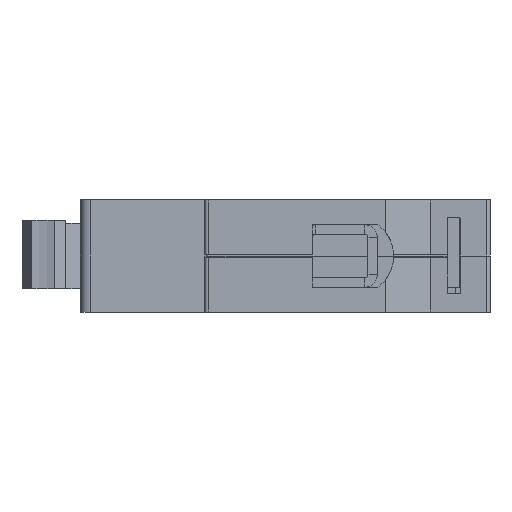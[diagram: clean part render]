
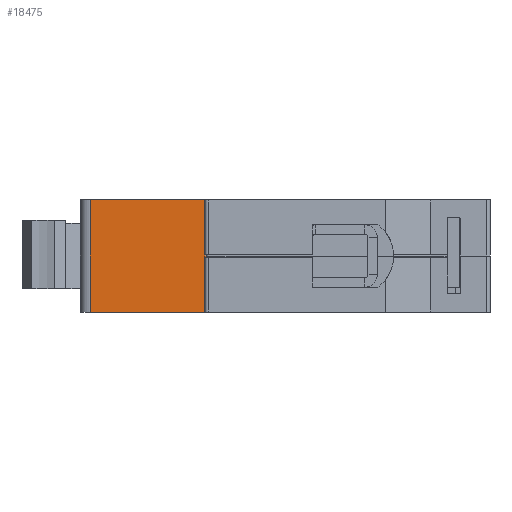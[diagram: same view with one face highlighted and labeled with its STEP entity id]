
A CAD part, left-side view. The second image highlights one B-rep face of the part: STEP entity #18475.
In plain terms, the highlighted planar face has unit normal (-1, 0, 0).
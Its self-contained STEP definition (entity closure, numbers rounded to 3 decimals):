
#161 = CARTESIAN_POINT ( 'NONE',  ( -14., -12., 0. ) ) ;
#185 = PLANE ( 'NONE',  #546 ) ;
#375 = VECTOR ( 'NONE', #16827, 1000. ) ;
#546 = AXIS2_PLACEMENT_3D ( 'NONE', #14706, #19799, #13376 ) ;
#659 = CARTESIAN_POINT ( 'NONE',  ( -14., -12.2, -0.2 ) ) ;
#979 = CARTESIAN_POINT ( 'NONE',  ( -14., -12., 9. ) ) ;
#1035 = CARTESIAN_POINT ( 'NONE',  ( -14., -12., -9. ) ) ;
#1427 = LINE ( 'NONE', #17378, #15050 ) ;
#2578 = DIRECTION ( 'NONE',  ( 0., 0., 1. ) ) ;
#3641 = CARTESIAN_POINT ( 'NONE',  ( -14., 6.4, 9. ) ) ;
#3741 = ORIENTED_EDGE ( 'NONE', *, *, #8096, .T. ) ;
#4238 = CARTESIAN_POINT ( 'NONE',  ( -14., -12.2, -0.2 ) ) ;
#4280 = CARTESIAN_POINT ( 'NONE',  ( -14., 6.4, -9. ) ) ;
#4370 = DIRECTION ( 'NONE',  ( 0., 0., 1. ) ) ;
#4424 = ORIENTED_EDGE ( 'NONE', *, *, #20525, .T. ) ;
#4465 = EDGE_CURVE ( 'NONE', #6295, #7954, #16192, .T. ) ;
#4567 = CARTESIAN_POINT ( 'NONE',  ( -14., -12., -9. ) ) ;
#5057 = VECTOR ( 'NONE', #4370, 1000. ) ;
#5578 = CARTESIAN_POINT ( 'NONE',  ( -14., -12., -1. ) ) ;
#6139 = CARTESIAN_POINT ( 'NONE',  ( -14., 6.4, -9. ) ) ;
#6295 = VERTEX_POINT ( 'NONE', #4280 ) ;
#7954 = VERTEX_POINT ( 'NONE', #3641 ) ;
#7997 = VECTOR ( 'NONE', #2578, 1000. ) ;
#8096 = EDGE_CURVE ( 'NONE', #14313, #10628, #13031, .T. ) ;
#8129 = EDGE_CURVE ( 'NONE', #12588, #19028, #1427, .T. ) ;
#8683 = LINE ( 'NONE', #16455, #12468 ) ;
#10085 = CARTESIAN_POINT ( 'NONE',  ( -14., -12., -0.2 ) ) ;
#10289 = DIRECTION ( 'NONE',  ( 0., -1., 0. ) ) ;
#10535 = VECTOR ( 'NONE', #13120, 1000. ) ;
#10553 = EDGE_CURVE ( 'NONE', #7954, #11370, #8683, .T. ) ;
#10628 = VERTEX_POINT ( 'NONE', #10085 ) ;
#11353 = CARTESIAN_POINT ( 'NONE',  ( -14., -12.2, 0. ) ) ;
#11370 = VERTEX_POINT ( 'NONE', #979 ) ;
#11600 = CARTESIAN_POINT ( 'NONE',  ( -14., -12., -0.2 ) ) ;
#12031 = DIRECTION ( 'NONE',  ( 0., -1., 0. ) ) ;
#12408 = EDGE_CURVE ( 'NONE', #6295, #14313, #16124, .T. ) ;
#12468 = VECTOR ( 'NONE', #10289, 1000. ) ;
#12588 = VERTEX_POINT ( 'NONE', #11353 ) ;
#13031 = LINE ( 'NONE', #1035, #7997 ) ;
#13120 = DIRECTION ( 'NONE',  ( 0., 1., 0. ) ) ;
#13376 = DIRECTION ( 'NONE',  ( 0., -1., 0. ) ) ;
#13945 = ORIENTED_EDGE ( 'NONE', *, *, #8129, .T. ) ;
#14073 = ORIENTED_EDGE ( 'NONE', *, *, #10553, .F. ) ;
#14313 = VERTEX_POINT ( 'NONE', #4567 ) ;
#14451 = ORIENTED_EDGE ( 'NONE', *, *, #12408, .T. ) ;
#14459 = FACE_OUTER_BOUND ( 'NONE', #16572, .T. ) ;
#14706 = CARTESIAN_POINT ( 'NONE',  ( -14., -12., -9. ) ) ;
#14872 = EDGE_CURVE ( 'NONE', #16718, #10628, #15796, .T. ) ;
#15050 = VECTOR ( 'NONE', #19127, 1000. ) ;
#15698 = DIRECTION ( 'NONE',  ( 0., 0., 1. ) ) ;
#15796 = LINE ( 'NONE', #11600, #10535 ) ;
#16124 = LINE ( 'NONE', #20245, #19422 ) ;
#16192 = LINE ( 'NONE', #6139, #16218 ) ;
#16218 = VECTOR ( 'NONE', #15698, 1000. ) ;
#16455 = CARTESIAN_POINT ( 'NONE',  ( -14., -12., 9. ) ) ;
#16572 = EDGE_LOOP ( 'NONE', ( #14073, #18429, #14451, #3741, #20181, #4424, #13945, #19185 ) ) ;
#16718 = VERTEX_POINT ( 'NONE', #659 ) ;
#16827 = DIRECTION ( 'NONE',  ( 0., 0., 1. ) ) ;
#17378 = CARTESIAN_POINT ( 'NONE',  ( -14., -12., 0. ) ) ;
#17859 = EDGE_CURVE ( 'NONE', #19028, #11370, #20075, .T. ) ;
#18429 = ORIENTED_EDGE ( 'NONE', *, *, #4465, .F. ) ;
#18475 = ADVANCED_FACE ( 'NONE', ( #14459 ), #185, .T. ) ;
#18661 = LINE ( 'NONE', #4238, #5057 ) ;
#19028 = VERTEX_POINT ( 'NONE', #161 ) ;
#19127 = DIRECTION ( 'NONE',  ( 0., 1., 0. ) ) ;
#19185 = ORIENTED_EDGE ( 'NONE', *, *, #17859, .T. ) ;
#19422 = VECTOR ( 'NONE', #12031, 1000. ) ;
#19799 = DIRECTION ( 'NONE',  ( -1., 0., 0. ) ) ;
#20075 = LINE ( 'NONE', #5578, #375 ) ;
#20181 = ORIENTED_EDGE ( 'NONE', *, *, #14872, .F. ) ;
#20245 = CARTESIAN_POINT ( 'NONE',  ( -14., -12., -9. ) ) ;
#20525 = EDGE_CURVE ( 'NONE', #16718, #12588, #18661, .T. ) ;
